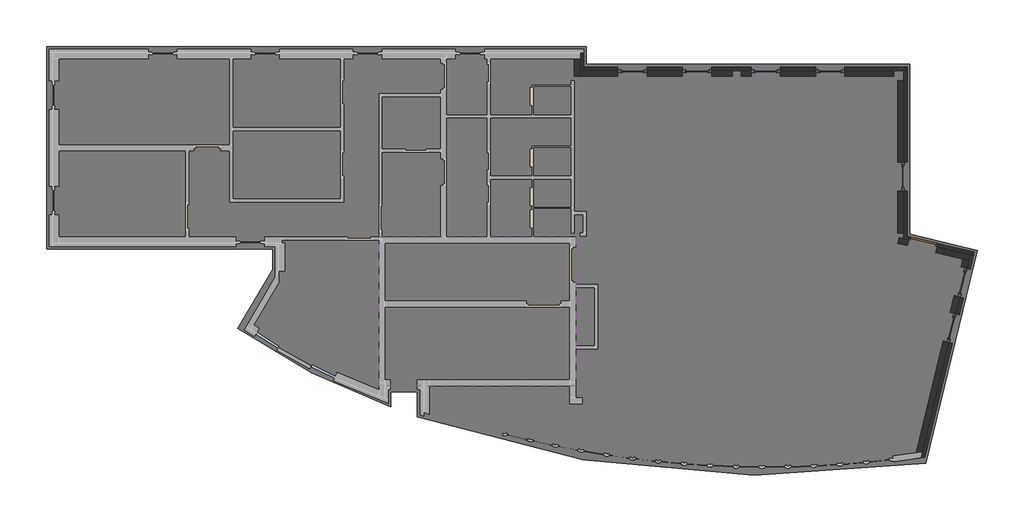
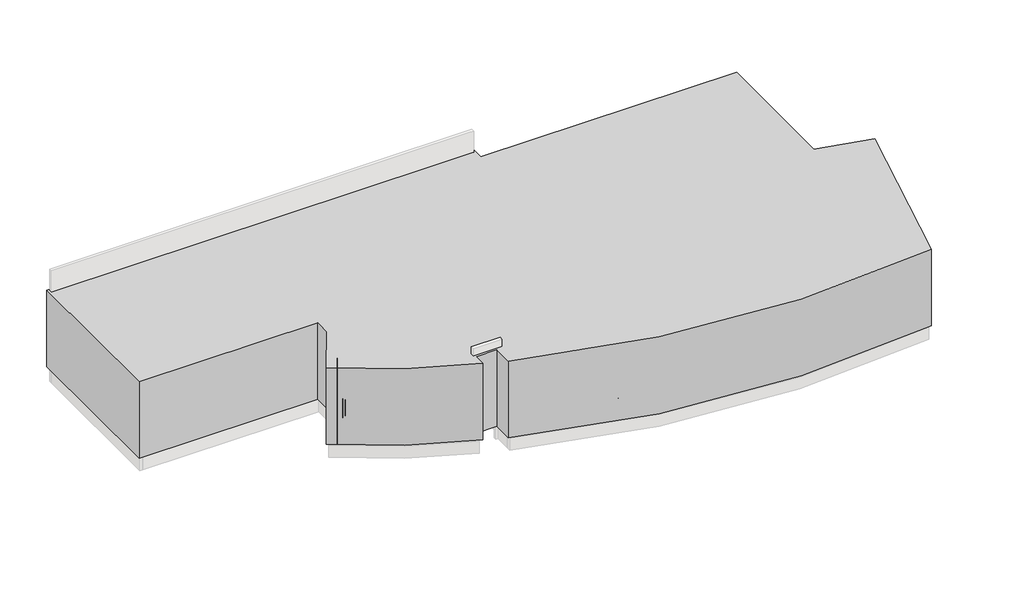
# One storey, part 4 of 4: 18 walls, 7 windows, 4 slabs, 1 door, 1 proxy.
"""IFC4 building model written with IfcOpenShell, lengths in millimetres."""

from ifc_helpers import new_model, si_unit, point, frame, frame_2d, origin, place, context, project, spatial, polyline, circle_curve, trimmed, segment, composite_curve, outline, extrude, faceted_brep, transform, mapped, element, save
from ifc_brep_helpers import plane_surface, cylinder_surface, advanced_brep
from components import door_57be7e1d, window_b37a0a77

model = new_model("IFC4")

# Units and contexts
model_context = context("Model", 3, world=origin())
ifc_project = project(units=[si_unit("LENGTHUNIT", "METRE", prefix="MILLI")], contexts=[model_context])

# Site, building, storey
site = spatial("IfcSite", under=ifc_project)
building = spatial("IfcBuilding", under=site)
storey = spatial("IfcBuildingStorey", under=building, Name="Этаж 2", Elevation=3600.0)

# Proxy
placement = place(None, origin())
element("IfcBuildingElementProxy", 1, Name="Ф Этаж 2 : Ф Этаж 2", ObjectType="Ф Этаж 2 : Ф Этаж 2", at=placement, inside=storey, context=model_context, shape_type="SweptSolid", body=[
    extrude(outline(composite_curve([segment(polyline([(-1805.9332962, 4470.0), (-1805.9332962, 11400.0), (16629.9987544, 11400.0), (16629.9987544, 10790.0), (27679.9990554, 10790.0), (27679.9990554, 4991.002639), (29987.2324476, 4432.7888771), (28225.1801468, -2850.2023073)]), True, "CONTINUOUS"), segment(trimmed(circle_curve(frame_2d((22750.068221, 33124.0258435)), 36388.4863885), [point((28225.1801468, -2850.2023073))], [point((10848.291724, -1263.0307019))], False, "CARTESIAN"), True, "CONTINUOUS"), segment(polyline([(10848.291724, -1263.0307019), (10848.291724, -410.0), (9948.291724, -410.0), (9948.291724, -923.4984263)]), True, "CONTINUOUS"), segment(trimmed(circle_curve(frame_2d((16778.7203102, 18769.2388228)), 20843.6718223), [point((9948.291724, -923.4984263))], [point((4731.2047674, 1759.9465307))], False, "CARTESIAN"), True, "CONTINUOUS"), segment(polyline([(4731.2047674, 1759.9465307), (5920.291724, 3778.8538066), (5920.291724, 4470.0), (-1805.9332962, 4470.0)]), True, "CONTINUOUS")], self_intersect=False)), frame((0.0, 0.0, 3600.0), z_axis=(0.0, 0.0, 1.0), x_axis=(1.0, 0.0, 0.0)), (0.0, 0.0, 1.0), 3500.0),
])

# Door
door_shape = door_57be7e1d(model_context)
element("IfcDoor", 2, ObjectType="(Dr)_ДУ(распашная)_1Ст_Прямоугольная : (Вн)_ДГ(1.00х2.1(h))", at=placement, inside=storey, context=model_context, shape_type="MappedRepresentation", body=[
    mapped(door_shape, transform((28138.0109393, 4725.8631846, 3600.0), x_axis=(0.9719576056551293, -0.2351561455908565, 0.0), y_axis=(0.2351561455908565, 0.9719576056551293, 0.0), z_axis=(0.0, 0.0, 1.0))),
])

# Slabs
element("IfcSlab", 3, ObjectType="(Вн).(Тип2-100)", at=placement, inside=storey, context=model_context, shape_type="SweptSolid", body=[
    extrude(outline(composite_curve([segment(polyline([(16219.9987544, 10990.0), (16219.9987544, 10380.0), (27269.9990554, 10380.0), (27269.9990554, 4668.3692458), (29492.3158096, 4130.7002784), (27890.3187234, -2490.7437338)]), True, "CONTINUOUS"), segment(trimmed(circle_curve(frame_2d((22767.3792147, 33121.1499071)), 35978.4863203), [point((27890.3187234, -2490.7437338))], [point((11270.291724, -970.9086569))], False, "CARTESIAN"), True, "CONTINUOUS"), segment(polyline([(11270.291724, -970.9086569), (11270.291724, -200.0), (16070.291724, -200.0), (16070.291724, -820.0), (16490.0, -820.0), (16490.0, -620.0), (16270.291724, -620.0), (16270.291724, 1059.6640199), (17019.5672054, 1059.6640199), (17019.5672054, 3259.9999996), (16270.291724, 3259.9999996), (16270.291724, 2700.0), (9550.291724, 2700.0), (9550.291724, -343.1855214)]), True, "CONTINUOUS"), segment(trimmed(circle_curve(frame_2d((16832.6255007, 18872.8552409)), 20549.6619878), [point((9550.291724, -343.1855214))], [point((5277.5419392, 1879.6609649))], False, "CARTESIAN"), True, "CONTINUOUS"), segment(polyline([(5277.5419392, 1879.6609649), (6330.291724, 3667.0863408), (6330.291724, 4880.0), (-1395.9332962, 4880.0), (-1395.9332962, 10990.0), (16219.9987544, 10990.0)]), True, "CONTINUOUS")], self_intersect=False), holes=[polyline([(16530.0005822, 5021.7654473), (16530.0005822, 5650.0), (16219.9988356, 5650.0), (16219.9988356, 5021.7654473), (16530.0005822, 5021.7654473)])]), frame((0.0, 0.0, 3500.0), z_axis=(0.0, 0.0, 1.0), x_axis=(1.0, 0.0, 0.0)), (0.0, 0.0, 1.0), 100.0),
])
element("IfcSlab", 4, ObjectType="(Вн).(Тип2-100)", at=placement, inside=storey, context=model_context, shape_type="SweptSolid", body=[
    extrude(outline(composite_curve([segment(polyline([(16219.9987544, 10990.0), (16219.9987544, 10380.0), (27269.9990554, 10380.0), (27269.9990554, 4668.3692458), (29492.3158096, 4130.7002784), (27890.3187234, -2490.7437338)]), True, "CONTINUOUS"), segment(trimmed(circle_curve(frame_2d((22767.3792147, 33121.1499071)), 35978.4863203), [point((27890.3187234, -2490.7437338))], [point((11270.291724, -970.9086569))], False, "CARTESIAN"), True, "CONTINUOUS"), segment(polyline([(11270.291724, -970.9086569), (11270.291724, -200.0), (16070.291724, -200.0), (16070.291724, -820.0), (16490.0, -820.0), (16490.0, -620.0), (16270.291724, -620.0), (16270.291724, 1059.6640199), (17019.5672054, 1059.6640199), (17019.5672054, 3259.9999996), (16270.291724, 3259.9999996), (16270.291724, 2700.0), (9550.291724, 2700.0), (9550.291724, -343.1855214)]), True, "CONTINUOUS"), segment(trimmed(circle_curve(frame_2d((16832.6255007, 18872.8552409)), 20549.6619878), [point((9550.291724, -343.1855214))], [point((5277.5419392, 1879.6609649))], False, "CARTESIAN"), True, "CONTINUOUS"), segment(polyline([(5277.5419392, 1879.6609649), (6330.291724, 3667.0863408), (6330.291724, 4880.0), (-1395.9332962, 4880.0), (-1395.9332962, 10990.0), (16219.9987544, 10990.0)]), True, "CONTINUOUS")], self_intersect=False), holes=[polyline([(16530.0005822, 5021.7654473), (16530.0005822, 5650.0), (16219.9988356, 5650.0), (16219.9988356, 5021.7654473), (16530.0005822, 5021.7654473)])]), frame((0.0, 0.0, 3500.0), z_axis=(0.0, 0.0, 1.0), x_axis=(1.0, 0.0, 0.0)), (0.0, 0.0, 1.0), 100.0),
])
element("IfcSlab", 5, ObjectType="(Вн)_(ЖБ-200)", at=placement, inside=storey, context=model_context, shape_type="SweptSolid", body=[
    extrude(outline(polyline([(16270.0, 4880.0), (16270.0, -200.0), (9550.291724, -200.0), (9550.291724, 4880.0), (16270.0, 4880.0)]), holes=[polyline([(10984.1224764, 3900.0000028), (9750.291724, 3900.0000028), (9750.291724, 2700.0), (10984.1224764, 2700.0), (10984.1224764, 3900.0000028)]), polyline([(13720.0, 350.0), (13720.0, 0.0), (15120.0, 0.0), (15120.0, 350.0), (13720.0, 350.0)])]), frame((0.0, 0.0, 5700.0), z_axis=(0.0, 0.0, 1.0), x_axis=(1.0, 0.0, 0.0)), (0.0, 0.0, 1.0), 200.0),
])
element("IfcSlab", 6, ObjectType="(Вн)_(ЖБ-200)", at=placement, inside=storey, context=model_context, shape_type="SweptSolid", body=[
    extrude(outline(polyline([(22269.9990554, 5380.0), (22269.9990554, 4380.0), (21919.9990554, 4380.0), (21919.9990554, -470.0), (21619.9990554, -470.0), (21619.9990554, 4380.0), (21269.9990554, 4380.0), (21269.9990554, 5380.0), (22269.9990554, 5380.0)])), frame((0.0, 0.0, 3100.0), z_axis=(0.0, 0.0, 1.0), x_axis=(1.0, 0.0, 0.0)), (0.0, 0.0, 1.0), 200.0),
    extrude(outline(polyline([(16120.0, 10230.0), (16420.0, 10230.0), (16420.0, 5030.0), (16120.0, 5030.0), (16120.0, 10230.0)])), frame((0.0, 0.0, 3100.0), z_axis=(0.0, 0.0, 1.0), x_axis=(1.0, 0.0, 0.0)), (0.0, 0.0, 1.0), 200.0),
    extrude(outline(polyline([(16070.0, -820.0), (16280.145862, -820.0), (16280.145862, -2113.3276554), (16070.0, -2075.9132898), (16070.0, -820.0)])), frame((0.0, 0.0, 3100.0), z_axis=(0.0, 0.0, 1.0), x_axis=(1.0, 0.0, 0.0)), (0.0, 0.0, 1.0), 200.0),
    extrude(outline(polyline([(27119.9990554, -770.0), (27419.9990554, -770.0), (27419.9990554, -2403.9897137), (27119.9990554, -2403.9897137), (27119.9990554, -770.0)])), frame((0.0, 0.0, 3100.0), z_axis=(0.0, 0.0, 1.0), x_axis=(1.0, 0.0, 0.0)), (0.0, 0.0, 1.0), 200.0),
    extrude(outline(polyline([(27419.9990554, -470.0), (27119.9990554, -470.0), (27119.9990554, 4550.3326386), (27419.9990554, 4477.7504156), (27419.9990554, -470.0)])), frame((0.0, 0.0, 3100.0), z_axis=(0.0, 0.0, 1.0), x_axis=(1.0, 0.0, 0.0)), (0.0, 0.0, 1.0), 200.0),
])

# Walls
element("IfcWall", 7, ObjectType="(Нр)_(ПБ-200)", at=placement, inside=storey, context=model_context, shape_type="Brep", body=[
    faceted_brep([(16219.9987544, 10990.0, 3500.0), (16219.9987544, 10380.0, 3500.0), (16219.9987544, 10380.0, 6700.0), (16219.9987544, 10990.0, 6700.0), (16419.9987544, 10990.0, 3500.0), (16419.9987544, 10990.0, 6700.0), (16419.9987544, 10580.0, 6700.0), (16419.9987544, 10380.0, 6700.0), (16419.9987544, 10380.0, 3500.0), (16419.9987544, 10580.0, 3500.0)], [[[0, 1, 2, 3]], [[4, 5, 6, 7, 8, 9]], [[1, 0, 4, 9, 8]], [[3, 2, 7, 6, 5]], [[0, 3, 5, 4]], [[2, 1, 8, 7]]]),
])
element("IfcWall", 8, ObjectType="(Нр)_(Ут-120.От-90)", at=placement, inside=storey, context=model_context, shape_type="Brep", body=[
    faceted_brep([(16419.9987544, 11190.0, 3501.2887174), (16419.9987544, 10580.0, 3501.2887174), (16419.9987544, 10580.0, 6700.0), (16419.9987544, 11190.0, 6700.0), (16539.9987544, 11190.0, 3501.2887174), (16539.9987544, 11190.0, 6700.0), (16539.9987544, 10700.0, 6700.0), (16539.9987544, 10580.0, 6700.0), (16539.9987544, 10580.0, 3501.2887174)], [[[0, 1, 2, 3]], [[4, 5, 6, 7, 8]], [[1, 0, 4, 8]], [[3, 2, 7, 6, 5]], [[0, 3, 5, 4]], [[2, 1, 8, 7]]]),
])
element("IfcWall", 9, ObjectType="(Нр)_(Ут-120.От-90)", at=placement, inside=storey, context=model_context, shape_type="Brep", body=[
    faceted_brep([(16539.9987544, 10580.0, 3500.0), (27469.9990554, 10580.0, 3500.0), (27589.9990554, 10580.0, 3500.0), (27589.9990554, 10580.0, 6700.0), (27469.9990554, 10580.0, 6700.0), (16539.9987544, 10580.0, 6700.0), (16539.9987544, 10580.0, 3501.2887174), (24459.9999506, 10580.0, 6420.0), (25459.9999506, 10580.0, 6420.0), (25459.9999506, 10580.0, 4420.0), (24459.9999506, 10580.0, 4420.0), (22259.9999506, 10580.0, 6420.0), (23259.9999506, 10580.0, 6420.0), (23259.9999506, 10580.0, 4420.0), (22259.9999506, 10580.0, 4420.0), (19909.9990542, 10580.0, 6420.0), (20909.9990542, 10580.0, 6420.0), (20909.9990542, 10580.0, 4420.0), (19909.9990542, 10580.0, 4420.0), (17709.9999702, 10580.0, 6420.0), (18709.9999702, 10580.0, 6420.0), (18709.9999702, 10580.0, 4420.0), (17709.9999702, 10580.0, 4420.0), (16539.9987544, 10700.0, 3500.0), (16539.9987544, 10700.0, 6700.0), (27589.9990554, 10700.0, 6700.0), (27589.9990554, 10700.0, 3500.0), (25459.9999506, 10700.0, 6420.0), (24459.9999506, 10700.0, 6420.0), (24459.9999506, 10700.0, 4460.0), (25459.9999506, 10700.0, 4460.0), (23259.9999506, 10700.0, 6420.0), (22259.9999506, 10700.0, 6420.0), (22259.9999506, 10700.0, 4460.0), (23259.9999506, 10700.0, 4460.0), (20909.9990542, 10700.0, 6420.0), (19909.9990542, 10700.0, 6420.0), (19909.9990542, 10700.0, 4460.0), (20909.9990542, 10700.0, 4460.0), (18709.9999702, 10700.0, 6420.0), (17709.9999702, 10700.0, 6420.0), (17709.9999702, 10700.0, 4460.0), (18709.9999702, 10700.0, 4460.0), (24459.9999506, 10600.0, 4420.0), (25459.9999506, 10600.0, 4420.0), (25459.9999506, 10600.0, 4460.0), (24459.9999506, 10600.0, 4460.0), (24459.9999506, 10675.434827, 6420.0), (25459.9999506, 10675.434827, 6420.0), (24459.9999506, 10675.434827, 4460.0), (25459.9999506, 10675.434827, 4460.0), (22259.9999506, 10600.0, 4420.0), (23259.9999506, 10600.0, 4420.0), (23259.9999506, 10600.0, 4460.0), (22259.9999506, 10600.0, 4460.0), (22259.9999506, 10675.434827, 6420.0), (23259.9999506, 10675.434827, 6420.0), (22259.9999506, 10675.434827, 4460.0), (23259.9999506, 10675.434827, 4460.0), (19909.9990542, 10600.0, 4420.0), (20909.9990542, 10600.0, 4420.0), (20909.9990542, 10600.0, 4460.0), (19909.9990542, 10600.0, 4460.0), (19909.9990542, 10675.434827, 6420.0), (20909.9990542, 10675.434827, 6420.0), (19909.9990542, 10675.434827, 4460.0), (20909.9990542, 10675.434827, 4460.0), (17709.9999702, 10600.0, 4420.0), (18709.9999702, 10600.0, 4420.0), (18709.9999702, 10600.0, 4460.0), (17709.9999702, 10600.0, 4460.0), (17709.9999702, 10675.434827, 6420.0), (18709.9999702, 10675.434827, 6420.0), (17709.9999702, 10675.434827, 4460.0), (18709.9999702, 10675.434827, 4460.0)], [[[0, 1, 2, 3, 4, 5, 6], [7, 8, 9, 10], [11, 12, 13, 14], [15, 16, 17, 18], [19, 20, 21, 22]], [[23, 24, 25, 26], [27, 28, 29, 30], [31, 32, 33, 34], [35, 36, 37, 38], [39, 40, 41, 42]], [[2, 1, 0, 23, 26]], [[5, 4, 3, 25, 24]], [[0, 6, 5, 24, 23]], [[3, 2, 26, 25]], [[43, 44, 45, 46]], [[8, 7, 47, 28, 27, 48]], [[10, 43, 46, 49, 29, 28, 47, 7]], [[44, 43, 10, 9]], [[44, 9, 8, 48, 27, 30, 50, 45]], [[30, 29, 49, 46, 45, 50]], [[51, 52, 53, 54]], [[12, 11, 55, 32, 31, 56]], [[14, 51, 54, 57, 33, 32, 55, 11]], [[52, 51, 14, 13]], [[52, 13, 12, 56, 31, 34, 58, 53]], [[34, 33, 57, 54, 53, 58]], [[59, 60, 61, 62]], [[16, 15, 63, 36, 35, 64]], [[18, 59, 62, 65, 37, 36, 63, 15]], [[60, 59, 18, 17]], [[60, 17, 16, 64, 35, 38, 66, 61]], [[38, 37, 65, 62, 61, 66]], [[67, 68, 69, 70]], [[20, 19, 71, 40, 39, 72]], [[22, 67, 70, 73, 41, 40, 71, 19]], [[68, 67, 22, 21]], [[68, 21, 20, 72, 39, 42, 74, 69]], [[42, 41, 73, 70, 69, 74]]]),
])
element("IfcWall", 10, ObjectType="(Нр)_(ПБ-200)", at=placement, inside=storey, context=model_context, shape_type="SweptSolid", body=[
    extrude(outline(polyline([(3500.0, 16419.9987544), (3500.0, 21619.9990554), (6700.0, 21619.9990554), (6700.0, 16419.9987544), (3500.0, 16419.9987544)]), holes=[polyline([(6420.0, 17709.9999702), (6420.0, 18709.9999702), (4420.0, 18709.9999702), (4420.0, 17709.9999702), (6420.0, 17709.9999702)]), polyline([(6420.0, 19909.9990542), (6420.0, 20909.9990542), (4420.0, 20909.9990542), (4420.0, 19909.9990542), (6420.0, 19909.9990542)])]), frame((0.0, 10380.0, 0.0), z_axis=(0.0, 1.0, 0.0), x_axis=(0.0, 0.0, 1.0)), (0.0, 0.0, 1.0), 200.0),
])
element("IfcWall", 11, ObjectType="(Нр)_(ПБ-200)", at=placement, inside=storey, context=model_context, shape_type="SweptSolid", body=[
    extrude(outline(polyline([(3500.0, 21919.9990554), (3500.0, 27119.9990554), (6700.0, 27119.9990554), (6700.0, 21919.9990554), (3500.0, 21919.9990554)]), holes=[polyline([(6420.0, 22259.9999506), (6420.0, 23259.9999506), (4420.0, 23259.9999506), (4420.0, 22259.9999506), (6420.0, 22259.9999506)]), polyline([(6420.0, 24459.9999506), (6420.0, 25459.9999506), (4420.0, 25459.9999506), (4420.0, 24459.9999506), (6420.0, 24459.9999506)])]), frame((0.0, 10380.0, 0.0), z_axis=(0.0, 1.0, 0.0), x_axis=(0.0, 0.0, 1.0)), (0.0, 0.0, 1.0), 200.0),
])
element("IfcWall", 12, ObjectType="(Нр)_(ПБ-200)", at=placement, inside=storey, context=model_context, shape_type="SweptSolid", body=[
    extrude(outline(polyline([(10230.0, 3500.0), (5030.0, 3500.0), (5030.0, 6700.0), (10230.0, 6700.0), (10230.0, 3500.0)]), holes=[polyline([(7450.0, 6420.0), (6450.0, 6420.0), (6450.0, 4420.0), (7450.0, 4420.0), (7450.0, 6420.0)])]), frame((27269.9990554, 0.0, 0.0), z_axis=(1.0, 0.0, 0.0), x_axis=(0.0, 1.0, 0.0)), (0.0, 0.0, 1.0), 200.0),
])
element("IfcWall", 13, ObjectType="(Нр)_(Ут-120.От-90)", at=placement, inside=storey, context=model_context, shape_type="Brep", body=[
    faceted_brep([(27469.9990554, 10580.0, 3500.0), (27469.9990554, 4825.7513888, 3500.0), (27469.9990554, 4825.7513888, 6700.0), (27469.9990554, 10580.0, 6700.0), (27469.9990554, 7450.0, 6420.0), (27469.9990554, 6450.0, 6420.0), (27469.9990554, 6450.0, 4420.0), (27469.9990554, 7450.0, 4420.0), (27589.9990554, 10580.0, 3500.0), (27589.9990554, 10580.0, 6700.0), (27589.9990554, 4920.1806746, 6700.0), (27589.9990554, 4796.7184996, 6700.0), (27589.9990554, 4796.7184996, 3500.0), (27589.9990554, 4920.1806746, 3500.0), (27589.9990554, 6450.0, 6420.0), (27589.9990554, 7450.0, 6420.0), (27589.9990554, 7450.0, 4460.0), (27589.9990554, 6450.0, 4460.0), (27489.9990554, 7450.0, 4420.0), (27489.9990554, 6450.0, 4420.0), (27489.9990554, 6450.0, 4460.0), (27489.9990554, 7450.0, 4460.0), (27565.4338824, 7450.0, 6420.0), (27565.4338824, 6450.0, 6420.0), (27565.4338824, 7450.0, 4460.0), (27565.4338824, 6450.0, 4460.0)], [[[0, 1, 2, 3], [4, 5, 6, 7]], [[8, 9, 10, 11, 12, 13], [14, 15, 16, 17]], [[1, 0, 8, 13, 12]], [[3, 2, 11, 10, 9]], [[0, 3, 9, 8]], [[2, 1, 12, 11]], [[18, 19, 20, 21]], [[5, 4, 22, 15, 14, 23]], [[7, 18, 21, 24, 16, 15, 22, 4]], [[19, 18, 7, 6]], [[19, 6, 5, 23, 14, 17, 25, 20]], [[17, 16, 24, 21, 20, 25]]]),
])
element("IfcWall", 14, ObjectType="(Нр)_(Ут-120.От-90)", at=placement, inside=storey, context=model_context, shape_type="Brep", body=[
    faceted_brep([(27589.9990554, 4796.7184996, 3500.0), (29733.7385598, 4278.0605704, 3500.0), (29850.3734725, 4249.841833, 3500.0), (29850.3734725, 4249.841833, 6700.0), (29733.7385598, 4278.0605704, 6700.0), (27589.9990554, 4796.7184996, 6700.0), (28609.8803734, 4549.9676555, 5700.0), (28609.8803734, 4549.9676555, 3600.0), (27637.9227677, 4785.1238011, 3600.0), (27637.9227677, 4785.1238011, 5700.0), (27589.9990554, 4920.1806746, 3500.0), (27589.9990554, 4920.1806746, 6700.0), (29878.59221, 4366.4767457, 6700.0), (29878.59221, 4366.4767457, 3500.0), (28638.0991108, 4666.6025681, 3600.0), (28638.0991108, 4666.6025681, 5700.0), (27666.1415052, 4901.7587137, 5700.0), (27666.1415052, 4901.7587137, 3600.0)], [[[0, 1, 2, 3, 4, 5], [6, 7, 8, 9]], [[10, 11, 12, 13], [14, 15, 16, 17]], [[2, 1, 0, 10, 13]], [[5, 4, 3, 12, 11]], [[0, 5, 11, 10]], [[3, 2, 13, 12]], [[7, 6, 15, 14]], [[15, 6, 9, 16]], [[16, 9, 8, 17]], [[7, 14, 17, 8]]]),
])
element("IfcWall", 15, ObjectType="(Нр)_(ПБ-200)", at=placement, inside=storey, context=model_context, shape_type="SweptSolid", body=[
    extrude(outline(polyline([(-5e-07, 0.0), (1586.4338333, 0.0), (1586.4338333, -3200.0), (-5e-07, -3200.0), (-5e-07, 0.0)]), holes=[polyline([(330.1506993, -2200.0), (1330.1506992, -2200.0), (1330.1506992, -100.0), (330.1506993, -100.0), (330.1506993, -2200.0)])]), frame((27269.9990554, 4668.3692458, 3500.0), z_axis=(0.23515614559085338, 0.9719576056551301, 0.0), x_axis=(0.9719576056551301, -0.23515614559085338, 0.0)), (0.0, 0.0, 1.0), 200.0),
])
element("IfcWall", 16, ObjectType="(Нр)_(ПБ-200)", at=placement, inside=storey, context=model_context, shape_type="Brep", body=[
    faceted_brep([(28811.9454856, 4295.3095804, 3500.0), (29492.3158096, 4130.7002784, 3500.0), (29686.7073307, 4083.6690493, 3500.0), (29686.7073307, 4083.6690493, 6700.0), (29492.3158096, 4130.7002784, 6700.0), (28811.9454856, 4295.3095804, 6700.0), (28858.9767147, 4489.7011015, 3500.0), (28858.9767147, 4489.7011015, 6700.0), (29733.7385598, 4278.0605704, 6700.0), (29733.7385598, 4278.0605704, 3500.0)], [[[0, 1, 2, 3, 4, 5]], [[6, 7, 8, 9]], [[2, 1, 0, 6, 9]], [[5, 4, 3, 8, 7]], [[0, 5, 7, 6]], [[3, 2, 9, 8]]]),
])
element("IfcWall", 17, ObjectType="(Нр)_(ПБ-200)", at=placement, inside=storey, context=model_context, shape_type="AdvancedBrep", body=[
    advanced_brep(
    [(29492.3158096, 4130.7002784, 3500.0), (27890.3187234, -2490.7437338, 3500.0), (27890.3187234, -2490.7437338, 6700.0), (29492.3158096, 4130.7002784, 6700.0), (29426.4720888, 3858.5521489, 6420.0), (29191.3159432, 2886.5945432, 6420.0), (29191.3159432, 2886.5945432, 4420.0), (29426.4720888, 3858.5521489, 4420.0), (29050.2222559, 2303.4199798, 6420.0), (28815.0661103, 1331.4623741, 6420.0), (28815.0661103, 1331.4623741, 4420.0), (29050.2222559, 2303.4199798, 4420.0), (29686.7073307, 4083.6690493, 3500.0), (29686.7073307, 4083.6690493, 6700.0), (28103.6726169, -2459.3988608, 6700.0), (28103.6726169, -2459.3988608, 3500.0), (29620.8636099, 3811.5209197, 6420.0), (29620.8636099, 3811.5209197, 4420.0), (29385.7074643, 2839.5633141, 4420.0), (29385.7074643, 2839.5633141, 6420.0), (29244.613777, 2256.3887507, 6420.0), (29244.613777, 2256.3887507, 4420.0), (29009.4576314, 1284.431145, 4420.0), (29009.4576314, 1284.431145, 6420.0)],
    [
        (0, 1),
        (1, 2),
        (2, 3),
        (3, 0),
        (4, 5),
        (5, 6),
        (6, 7),
        (7, 4),
        (8, 9),
        (9, 10),
        (10, 11),
        (11, 8),
        (12, 13),
        (13, 14),
        (14, 15),
        (15, 12),
        (16, 17),
        (17, 18),
        (18, 19),
        (19, 16),
        (20, 21),
        (21, 22),
        (22, 23),
        (23, 20),
        (0, 12),
        (15, 1, circle_curve(frame((22767.3792147, 33121.1499071, 3500.0), z_axis=(0.0, 0.0, -1.0), x_axis=(1.0, 0.0, 0.0)), 35978.4863202)),
        (2, 14, circle_curve(frame((22767.3792147, 33121.1499071, 6700.0), z_axis=(0.0, 0.0, 1.0), x_axis=(1.0, 0.0, 0.0)), 35978.4863202)),
        (13, 3),
        (16, 4),
        (7, 17),
        (6, 18),
        (5, 19),
        (20, 8),
        (11, 21),
        (10, 22),
        (9, 23),
    ],
    [
        plane_surface(frame((29492.3158096, 4130.7002784, 3500.0), z_axis=(-0.9719576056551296, 0.2351561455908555, 0.0), x_axis=(-0.2351561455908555, -0.9719576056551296, 0.0))),
        plane_surface(frame((29686.7073307, 4083.6690493, 3500.0), z_axis=(0.9719576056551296, -0.2351561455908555, 0.0), x_axis=(0.2351561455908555, 0.9719576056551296, 0.0))),
        plane_surface(frame((29515.8314241, 4227.896039, 3500.0), z_axis=(0.0, 0.0, -1.0), x_axis=(0.9719576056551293, -0.23515614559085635, 0.0))),
        plane_surface(frame((27874.4096535, -2556.499793, 6700.0), z_axis=(0.0, 0.0, 1.0), x_axis=(0.97195760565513, -0.2351561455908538, 0.0))),
        cylinder_surface(frame((22767.3792147, 33121.1499071, 3500.0), z_axis=(0.0, 0.0, -1.0), x_axis=(1.0, 0.0, 0.0)), 35978.4863202),
        plane_surface(frame((27269.9990554, 4668.3692458, 3500.0), z_axis=(0.23515614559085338, 0.9719576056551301, 0.0), x_axis=(0.9719576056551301, -0.23515614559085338, 0.0))),
        plane_surface(frame((29620.8636099, 3811.5209197, 6420.0), z_axis=(-0.23515614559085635, -0.9719576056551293, 0.0), x_axis=(-0.9719576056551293, 0.23515614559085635, 0.0))),
        plane_surface(frame((29620.8636099, 3811.5209197, 4420.0), z_axis=(0.0, 0.0, 1.0), x_axis=(-0.9719576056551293, 0.23515614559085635, 0.0))),
        plane_surface(frame((29385.7074643, 2839.5633141, 4420.0), z_axis=(0.23515614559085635, 0.9719576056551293, 0.0), x_axis=(-0.9719576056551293, 0.23515614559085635, 0.0))),
        plane_surface(frame((29385.7074643, 2839.5633141, 6420.0), z_axis=(0.0, 0.0, -1.0), x_axis=(-0.9719576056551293, 0.23515614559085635, 0.0))),
        plane_surface(frame((29244.613777, 2256.3887507, 6420.0), z_axis=(-0.23515614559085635, -0.9719576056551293, 0.0), x_axis=(-0.9719576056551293, 0.23515614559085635, 0.0))),
        plane_surface(frame((29244.613777, 2256.3887507, 4420.0), z_axis=(0.0, 0.0, 1.0), x_axis=(-0.9719576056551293, 0.23515614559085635, 0.0))),
        plane_surface(frame((29009.4576314, 1284.431145, 4420.0), z_axis=(0.2351561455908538, 0.97195760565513, 0.0), x_axis=(-0.97195760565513, 0.2351561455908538, 0.0))),
        plane_surface(frame((29009.4576314, 1284.431145, 6420.0), z_axis=(0.0, 0.0, -1.0), x_axis=(-0.97195760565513, 0.2351561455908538, 0.0))),
    ],
    [
        (0, [[1, 2, 3, 4], [5, 6, 7, 8], [9, 10, 11, 12]]),
        (1, [[13, 14, 15, 16], [17, 18, 19, 20], [21, 22, 23, 24]]),
        (2, [[-1, 25, -16, 26]]),
        (3, [[-3, 27, -14, 28]]),
        (4, [[-2, -26, -15, -27]]),
        (5, [[-4, -28, -13, -25]]),
        (6, [[-17, 29, -8, 30]]),
        (7, [[-18, -30, -7, 31]]),
        (8, [[-19, -31, -6, 32]]),
        (9, [[-20, -32, -5, -29]]),
        (10, [[-21, 33, -12, 34]]),
        (11, [[-22, -34, -11, 35]]),
        (12, [[-23, -35, -10, 36]]),
        (13, [[-24, -36, -9, -33]]),
    ],
),
])
element("IfcWall", 18, ObjectType="(Нр)_(Ут-120.От-90)", at=placement, inside=storey, context=model_context, shape_type="AdvancedBrep", body=[
    advanced_brep(
    [(29733.7385598, 4278.0605704, 3500.0), (28052.9241912, -2669.1544606, 3500.0), (28052.9241912, -2669.1544606, 6700.0), (29733.7385598, 4278.0605704, 6700.0), (29244.613777, 2256.3887507, 6420.0), (29009.4576314, 1284.431145, 6420.0), (29009.4576314, 1284.431145, 4420.0), (29244.613777, 2256.3887507, 4420.0), (29620.8636099, 3811.5209197, 6420.0), (29385.7074643, 2839.5633141, 6420.0), (29385.7074643, 2839.5633141, 4420.0), (29620.8636099, 3811.5209197, 4420.0), (29850.3734725, 4249.841833, 3500.0), (29850.3734725, 4249.841833, 6700.0), (28181.019931, -2650.0028089, 6700.0), (28181.019931, -2650.0028089, 3500.0), (29126.0925441, 1256.2124076, 6420.0), (29361.2486897, 2228.1700132, 6420.0), (29361.2486897, 2228.1700132, 4460.0), (29126.0925441, 1256.2124076, 4460.0), (29502.342377, 2811.3445766, 6420.0), (29737.4985226, 3783.3021823, 6420.0), (29737.4985226, 3783.3021823, 4460.0), (29502.342377, 2811.3445766, 4460.0), (29264.0529291, 2251.6856278, 4420.0), (29028.8967835, 1279.7280221, 4420.0), (29028.8967835, 1279.7280221, 4460.0), (29264.0529291, 2251.6856278, 4460.0), (29337.372383, 2233.9466646, 6420.0), (29102.2162374, 1261.989059, 6420.0), (29337.372383, 2233.9466646, 4460.0), (29102.2162374, 1261.989059, 4460.0), (29640.3027621, 3806.8177968, 4420.0), (29405.1466165, 2834.8601912, 4420.0), (29405.1466165, 2834.8601912, 4460.0), (29640.3027621, 3806.8177968, 4460.0), (29713.6222159, 3789.0788337, 6420.0), (29478.4660703, 2817.121228, 6420.0), (29713.6222159, 3789.0788337, 4460.0), (29478.4660703, 2817.121228, 4460.0)],
    [
        (0, 1),
        (1, 2),
        (2, 3),
        (3, 0),
        (4, 5),
        (5, 6),
        (6, 7),
        (7, 4),
        (8, 9),
        (9, 10),
        (10, 11),
        (11, 8),
        (12, 13),
        (13, 14),
        (14, 15),
        (15, 12),
        (16, 17),
        (17, 18),
        (18, 19),
        (19, 16),
        (20, 21),
        (21, 22),
        (22, 23),
        (23, 20),
        (0, 12),
        (15, 1, circle_curve(frame((22767.3792211, 33121.1499768, 3500.0), z_axis=(0.0, 0.0, -1.0), x_axis=(1.0, 0.0, 0.0)), 36178.4863884)),
        (2, 14, circle_curve(frame((22767.3792211, 33121.1499768, 6700.0), z_axis=(0.0, 0.0, 1.0), x_axis=(1.0, 0.0, 0.0)), 36178.4863884)),
        (13, 3),
        (24, 25),
        (25, 26),
        (26, 27),
        (27, 24),
        (4, 28),
        (28, 17),
        (16, 29),
        (29, 5),
        (7, 24),
        (27, 30),
        (30, 18),
        (6, 25),
        (19, 31),
        (31, 26),
        (32, 33),
        (33, 34),
        (34, 35),
        (35, 32),
        (8, 36),
        (36, 21),
        (20, 37),
        (37, 9),
        (11, 32),
        (35, 38),
        (38, 22),
        (10, 33),
        (23, 39),
        (39, 34),
    ],
    [
        plane_surface(frame((29733.7385598, 4278.0605704, 3500.0), z_axis=(-0.9719576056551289, 0.2351561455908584, 0.0), x_axis=(-0.2351561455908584, -0.9719576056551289, 0.0))),
        plane_surface(frame((29850.3734725, 4249.841833, 3500.0), z_axis=(0.9719576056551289, -0.2351561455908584, 0.0), x_axis=(0.2351561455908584, 0.9719576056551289, 0.0))),
        plane_surface(frame((29747.8479286, 4336.3780268, 3500.0), z_axis=(0.0, 0.0, -1.0), x_axis=(0.971957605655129, -0.235156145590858, 0.0))),
        plane_surface(frame((28043.413322, -2708.4651985, 6700.0), z_axis=(0.0, 0.0, 1.0), x_axis=(0.971957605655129, -0.235156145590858, 0.0))),
        cylinder_surface(frame((22767.3792211, 33121.1499768, 3500.0), z_axis=(0.0, 0.0, -1.0), x_axis=(1.0, 0.0, 0.0)), 36178.4863884),
        plane_surface(frame((27469.9990554, 4825.7513888, 3500.0), z_axis=(0.2351561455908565, 0.9719576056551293, 0.0), x_axis=(0.9719576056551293, -0.2351561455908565, 0.0))),
        plane_surface(frame((29264.0529291, 2251.6856278, 6420.0), z_axis=(-0.9719576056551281, 0.23515614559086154, 0.0), x_axis=(-0.23515614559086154, -0.9719576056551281, 0.0))),
        plane_surface(frame((28960.8597511, 1296.1889523, 6420.0), z_axis=(0.0, 0.0, -1.0), x_axis=(0.971957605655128, -0.23515614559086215, 0.0))),
        plane_surface(frame((29196.0158967, 2268.146558, 6420.0), z_axis=(-0.2351561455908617, -0.9719576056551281, 0.0), x_axis=(0.9719576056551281, -0.2351561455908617, 0.0))),
        plane_surface(frame((29196.0158967, 2268.146558, 4420.0), z_axis=(0.0, 0.0, 1.0), x_axis=(0.9719576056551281, -0.2351561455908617, 0.0))),
        plane_surface(frame((28960.8597511, 1296.1889523, 4420.0), z_axis=(0.23515614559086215, 0.971957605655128, 0.0), x_axis=(0.971957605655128, -0.23515614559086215, 0.0))),
        plane_surface(frame((29146.4748563, 1765.7068249, 4460.0), z_axis=(0.0, 0.0, 1.0), x_axis=(0.23515614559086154, 0.9719576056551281, 0.0))),
        plane_surface(frame((29640.3027621, 3806.8177968, 6420.0), z_axis=(-0.9719576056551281, 0.23515614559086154, 0.0), x_axis=(-0.23515614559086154, -0.9719576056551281, 0.0))),
        plane_surface(frame((29337.1095841, 2851.3211214, 6420.0), z_axis=(0.0, 0.0, -1.0), x_axis=(0.971957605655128, -0.23515614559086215, 0.0))),
        plane_surface(frame((29572.2657297, 3823.278727, 6420.0), z_axis=(-0.2351561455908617, -0.9719576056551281, 0.0), x_axis=(0.9719576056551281, -0.2351561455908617, 0.0))),
        plane_surface(frame((29572.2657297, 3823.278727, 4420.0), z_axis=(0.0, 0.0, 1.0), x_axis=(0.9719576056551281, -0.2351561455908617, 0.0))),
        plane_surface(frame((29337.1095841, 2851.3211214, 4420.0), z_axis=(0.23515614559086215, 0.971957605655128, 0.0), x_axis=(0.971957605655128, -0.23515614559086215, 0.0))),
        plane_surface(frame((29522.7246893, 3320.838994, 4460.0), z_axis=(0.0, 0.0, 1.0), x_axis=(0.23515614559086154, 0.9719576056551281, 0.0))),
    ],
    [
        (0, [[1, 2, 3, 4], [5, 6, 7, 8], [9, 10, 11, 12]]),
        (1, [[13, 14, 15, 16], [17, 18, 19, 20], [21, 22, 23, 24]]),
        (2, [[-1, 25, -16, 26]]),
        (3, [[-3, 27, -14, 28]]),
        (4, [[-2, -26, -15, -27]]),
        (5, [[-4, -28, -13, -25]]),
        (6, [[29, 30, 31, 32]]),
        (7, [[-5, 33, 34, -17, 35, 36]]),
        (8, [[37, -32, 38, 39, -18, -34, -33, -8]]),
        (9, [[-29, -37, -7, 40]]),
        (10, [[-40, -6, -36, -35, -20, 41, 42, -30]]),
        (11, [[-19, -39, -38, -31, -42, -41]]),
        (12, [[43, 44, 45, 46]]),
        (13, [[-9, 47, 48, -21, 49, 50]]),
        (14, [[51, -46, 52, 53, -22, -48, -47, -12]]),
        (15, [[-43, -51, -11, 54]]),
        (16, [[-54, -10, -50, -49, -24, 55, 56, -44]]),
        (17, [[-23, -53, -52, -45, -56, -55]]),
    ],
),
])
element("IfcWall", 19, ObjectType="(Нр)_(Ут-170.От-90)", at=placement, inside=storey, context=model_context, shape_type="AdvancedBrep", body=[
    advanced_brep(
    [(29713.359417, 4406.4532904, 2955.0), (29673.3828723, 4241.2204974, 2955.0), (28012.2608039, -2624.6014617, 2955.0), (28012.2608039, -2624.6014617, 3500.0), (29673.3828723, 4241.2204974, 3500.0), (29713.359417, 4406.4532904, 3500.0), (29878.59221, 4366.4767457, 2955.0), (29878.59221, 4366.4767457, 3500.0), (28193.7211946, -2597.505394, 3500.0), (28193.7211946, -2597.505394, 2955.0)],
    [
        (0, 1),
        (1, 2),
        (2, 3),
        (3, 4),
        (4, 5),
        (5, 0),
        (6, 7),
        (7, 8),
        (8, 9),
        (9, 6),
        (0, 6),
        (9, 2, circle_curve(frame((22767.3792147, 33121.1499071, 2955.0), z_axis=(0.0, 0.0, -1.0), x_axis=(1.0, 0.0, 0.0)), 36128.4863204)),
        (3, 8, circle_curve(frame((22767.3792147, 33121.1499071, 3500.0), z_axis=(0.0, 0.0, 1.0), x_axis=(1.0, 0.0, 0.0)), 36128.4863204)),
        (7, 5),
    ],
    [
        plane_surface(frame((29685.1406795, 4289.8183777, 2955.0), z_axis=(-0.9719576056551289, 0.2351561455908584, 0.0), x_axis=(-0.2351561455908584, -0.9719576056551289, 0.0))),
        plane_surface(frame((29850.3734725, 4249.841833, 2955.0), z_axis=(0.9719576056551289, -0.2351561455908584, 0.0), x_axis=(0.2351561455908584, 0.9719576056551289, 0.0))),
        plane_surface(frame((29693.3711446, 4323.8368939, 2955.0), z_axis=(0.0, 0.0, -1.0), x_axis=(0.9719576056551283, -0.23515614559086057, 0.0))),
        plane_surface(frame((27998.7769112, -2680.3336733, 3500.0), z_axis=(0.0, 0.0, 1.0000000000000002), x_axis=(0.9719576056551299, -0.23515614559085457, 0.0))),
        cylinder_surface(frame((22767.3792147, 33121.1499071, 2955.0), z_axis=(0.0, 0.0, -1.0), x_axis=(1.0, 0.0, 0.0)), 36128.4863204),
        plane_surface(frame((27498.2177929, 4942.3863015, 2955.0), z_axis=(0.2351561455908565, 0.9719576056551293, 0.0), x_axis=(-0.9719576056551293, 0.2351561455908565, 0.0))),
    ],
    [
        (0, [[1, 2, 3, 4, 5, 6]]),
        (1, [[7, 8, 9, 10]]),
        (2, [[-2, -1, 11, -10, 12]]),
        (3, [[-5, -4, 13, -8, 14]]),
        (4, [[-3, -12, -9, -13]]),
        (5, [[-6, -14, -7, -11]]),
    ],
),
])
element("IfcWall", 20, ObjectType="(Нр)_(Ут-170.От-90)", at=placement, inside=storey, context=model_context, shape_type="SweptSolid", body=[
    extrude(outline(polyline([(29673.3828723, 4241.2204974), (27568.010783, 4750.5957857), (27607.9873278, 4915.8285787), (29713.359417, 4406.4532904), (29673.3828723, 4241.2204974)])), frame((0.0, 0.0, 2955.0), z_axis=(0.0, 0.0, 1.0), x_axis=(1.0, 0.0, 0.0)), (0.0, 0.0, 1.0), 545.0),
])
element("IfcWall", 21, ObjectType="(Нр)_(Ут-170.От-90)", at=placement, inside=storey, context=model_context, shape_type="SweptSolid", body=[
    extrude(outline(polyline([(10700.0, 3500.0), (10700.0, 3000.0), (7203.9999539, 3000.0), (7203.9999539, 3300.0), (5059.9382682, 3300.0), (5059.9382682, 3500.0), (10700.0, 3500.0)])), frame((27419.9990554, 0.0, 0.0), z_axis=(1.0, 0.0, 0.0), x_axis=(0.0, 1.0, 0.0)), (0.0, 0.0, 1.0), 170.0),
])
element("IfcWall", 22, ObjectType="(Нр)_(Ут-170.От-90)", at=placement, inside=storey, context=model_context, shape_type="Brep", body=[
    faceted_brep([(16479.9987544, 10530.0, 3000.0019334), (27589.9990554, 10530.0, 3000.0019334), (27589.9990554, 10530.0, 3500.0), (16479.9987544, 10530.0, 3500.0), (16479.9987544, 10700.0, 3000.0019334), (16479.9987544, 10700.0, 3500.0), (27589.9990554, 10700.0, 3500.0), (27589.9990554, 10700.0, 3000.0019334), (27587.9990554, 10700.0, 3000.0019334)], [[[0, 1, 2, 3]], [[4, 5, 6, 7, 8]], [[1, 0, 4, 8, 7]], [[3, 2, 6, 5]], [[0, 3, 5, 4]], [[2, 1, 7, 6]]]),
])
element("IfcWall", 23, ObjectType="(Нр)_(Ут-170.От-90)", at=placement, inside=storey, context=model_context, shape_type="Brep", body=[
    faceted_brep([(27540.0107554, 4268.8714608, 2955.0), (29100.2452632, 3891.3871642, 2955.0), (29265.4780561, 3851.4106195, 2955.0), (29265.4780561, 3851.4106195, 3180.0), (29100.2452632, 3891.3871642, 3180.0), (27540.0107554, 4268.8714608, 3180.0), (27579.9873002, 4434.1042537, 2955.0), (27579.9873002, 4434.1042537, 3180.0), (29305.4546009, 4016.6434124, 3180.0), (29305.4546009, 4016.6434124, 2955.0)], [[[0, 1, 2, 3, 4, 5]], [[6, 7, 8, 9]], [[2, 1, 0, 6, 9]], [[5, 4, 3, 8, 7]], [[0, 5, 7, 6]], [[3, 2, 9, 8]]]),
])
element("IfcWall", 24, ObjectType="(Нр)_(Ут-170.От-90)", at=placement, inside=storey, context=model_context, shape_type="AdvancedBrep", body=[
    advanced_brep(
    [(29100.2452632, 3891.3871642, 2955.0), (27584.099694, -2375.2116252, 2955.0), (27541.7477538, -2550.2625057, 2955.0), (27541.7477538, -2550.2625057, 3180.0), (27584.099694, -2375.2116252, 3180.0), (29100.2452632, 3891.3871642, 3180.0), (29265.4780561, 3851.4106195, 2955.0), (29265.4780561, 3851.4106195, 3180.0), (27721.028949, -2532.1735833, 3180.0), (27721.028949, -2532.1735833, 2955.0)],
    [
        (0, 1),
        (1, 2),
        (2, 3),
        (3, 4),
        (4, 5),
        (5, 0),
        (6, 7),
        (7, 8),
        (8, 9),
        (9, 6),
        (0, 6),
        (9, 2, circle_curve(frame((23385.1310559, 39543.8806022, 2955.0), z_axis=(0.0, 0.0, -1.0), x_axis=(1.0, 0.0, 0.0)), 42298.8693272)),
        (3, 8, circle_curve(frame((23385.1310559, 39543.8806022, 3180.0), z_axis=(0.0, 0.0, 1.0), x_axis=(1.0, 0.0, 0.0)), 42298.8693272)),
        (7, 5),
    ],
    [
        plane_surface(frame((29140.2218079, 4056.6199572, 2955.0), z_axis=(-0.9719576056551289, 0.23515614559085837, 0.0), x_axis=(-0.23515614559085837, -0.9719576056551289, 0.0))),
        plane_surface(frame((29305.4546009, 4016.6434124, 2955.0), z_axis=(0.9719576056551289, -0.23515614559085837, 0.0), x_axis=(0.23515614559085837, 0.9719576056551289, 0.0))),
        plane_surface(frame((29120.2335355, 3974.0035607, 2955.0), z_axis=(0.0, 0.0, -1.0), x_axis=(0.9719576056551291, -0.23515614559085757, 0.0))),
        plane_surface(frame((27569.9372302, -2433.7485361, 3180.0), z_axis=(0.0, 0.0, 1.0000000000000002), x_axis=(0.971957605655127, -0.23515614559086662, 0.0))),
        cylinder_surface(frame((23385.1310559, 39543.8806022, 2955.0), z_axis=(0.0, 0.0, 1.0), x_axis=(1.0, 0.0, 0.0)), 42298.8693272),
        plane_surface(frame((27623.0225106, 4248.787535, 2955.0), z_axis=(0.23515614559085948, 0.9719576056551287, 0.0), x_axis=(0.9719576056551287, -0.23515614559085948, 0.0))),
    ],
    [
        (0, [[1, 2, 3, 4, 5, 6]]),
        (1, [[7, 8, 9, 10]]),
        (2, [[-2, -1, 11, -10, 12]]),
        (3, [[-5, -4, 13, -8, 14]]),
        (4, [[-3, -12, -9, -13]]),
        (5, [[-6, -14, -7, -11]]),
    ],
),
])

# Windows
window_shape = window_b37a0a77(model_context)
element("IfcWindow", 25, ObjectType="RFAM2316_Window-10 : Window  FIX (1,0x2)", at=placement, inside=storey, context=model_context, shape_type="MappedRepresentation", body=[
    mapped(window_shape, transform((29250.5571613, 2004.7942238, 3520.0), x_axis=(-0.2351561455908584, -0.9719576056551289, 0.0), y_axis=(0.9719576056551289, -0.2351561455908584, 0.0), z_axis=(0.0, 0.0, 1.0))),
])
element("IfcWindow", 26, ObjectType="RFAM2316_Window-10 : Window  FIX (1,0x2)", at=placement, inside=storey, context=model_context, shape_type="MappedRepresentation", body=[
    mapped(window_shape, transform((29626.8069942, 3559.9263929, 3520.0), x_axis=(-0.2351561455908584, -0.9719576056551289, 0.0), y_axis=(0.9719576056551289, -0.2351561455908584, 0.0), z_axis=(0.0, 0.0, 1.0))),
])
element("IfcWindow", 27, ObjectType="RFAM2316_Window-10 : Window  FIX (1,0x2)", at=placement, inside=storey, context=model_context, shape_type="MappedRepresentation", body=[
    mapped(window_shape, transform((27534.9397721, 7206.8584094, 3520.0), x_axis=(0.0, -1.0, 0.0), y_axis=(1.0, 0.0, 0.0), z_axis=(0.0, 0.0, 1.0))),
])
element("IfcWindow", 28, ObjectType="RFAM2316_Window-10 : Window  FIX (1,0x2)", at=placement, inside=storey, context=model_context, shape_type="MappedRepresentation", body=[
    mapped(window_shape, transform((24703.1415412, 10644.9407167, 3520.0), x_axis=(1.0, 0.0, 0.0), y_axis=(0.0, 1.0, 0.0), z_axis=(0.0, 0.0, 1.0))),
])
element("IfcWindow", 29, ObjectType="RFAM2316_Window-10 : Window  FIX (1,0x2)", at=placement, inside=storey, context=model_context, shape_type="MappedRepresentation", body=[
    mapped(window_shape, transform((22503.1415412, 10644.9407167, 3520.0), x_axis=(1.0, 0.0, 0.0), y_axis=(0.0, 1.0, 0.0), z_axis=(0.0, 0.0, 1.0))),
])
element("IfcWindow", 30, ObjectType="RFAM2316_Window-10 : Window  FIX (1,0x2)", at=placement, inside=storey, context=model_context, shape_type="MappedRepresentation", body=[
    mapped(window_shape, transform((20153.1406448, 10644.9407167, 3520.0), x_axis=(1.0, 0.0, 0.0), y_axis=(0.0, 1.0, 0.0), z_axis=(0.0, 0.0, 1.0))),
])
element("IfcWindow", 31, ObjectType="RFAM2316_Window-10 : Window  FIX (1,0x2)", at=placement, inside=storey, context=model_context, shape_type="MappedRepresentation", body=[
    mapped(window_shape, transform((17953.1415608, 10644.9407167, 3520.0), x_axis=(1.0, 0.0, 0.0), y_axis=(0.0, 1.0, 0.0), z_axis=(0.0, 0.0, 1.0))),
])

save(model, "model.ifc")
